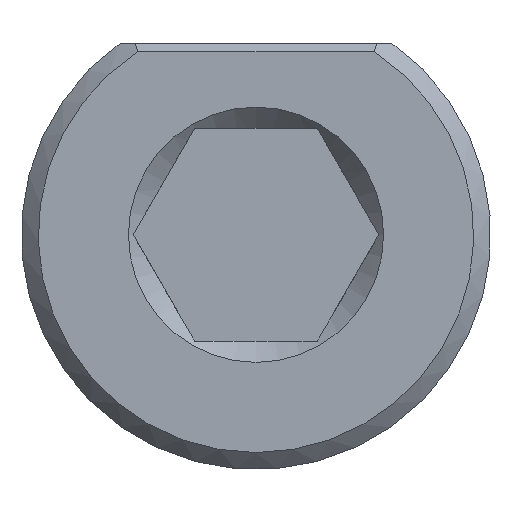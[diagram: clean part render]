
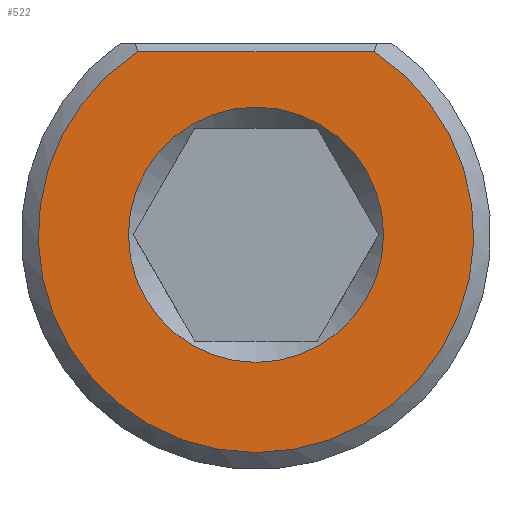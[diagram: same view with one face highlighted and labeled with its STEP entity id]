
A CAD part, front view. The second image highlights one B-rep face of the part: STEP entity #522.
In plain terms, the highlighted planar face has unit normal (0, -1, 0).
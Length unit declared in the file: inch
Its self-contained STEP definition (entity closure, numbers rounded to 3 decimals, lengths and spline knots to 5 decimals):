
#44=FACE_BOUND('',#115,.T.);
#52=PLANE('',#580);
#82=FACE_OUTER_BOUND('',#114,.T.);
#114=EDGE_LOOP('',(#410,#411));
#115=EDGE_LOOP('',(#412));
#145=LINE('',#871,#175);
#175=VECTOR('',#670,0.3937);
#204=CIRCLE('',#578,0.256);
#206=CIRCLE('',#581,0.15);
#240=VERTEX_POINT('',#866);
#241=VERTEX_POINT('',#870);
#242=VERTEX_POINT('',#879);
#303=EDGE_CURVE('',#240,#241,#145,.T.);
#305=EDGE_CURVE('',#241,#240,#204,.T.);
#307=EDGE_CURVE('',#242,#242,#206,.T.);
#410=ORIENTED_EDGE('',*,*,#303,.F.);
#411=ORIENTED_EDGE('',*,*,#305,.F.);
#412=ORIENTED_EDGE('',*,*,#307,.F.);
#522=ADVANCED_FACE('',(#82,#44),#52,.T.);
#578=AXIS2_PLACEMENT_3D('',#876,#673,#674);
#580=AXIS2_PLACEMENT_3D('',#878,#677,#678);
#581=AXIS2_PLACEMENT_3D('',#880,#679,#680);
#670=DIRECTION('',(1.,0.,0.));
#673=DIRECTION('center_axis',(0.,1.,0.));
#674=DIRECTION('ref_axis',(0.,0.,1.));
#677=DIRECTION('center_axis',(0.,-1.,0.));
#678=DIRECTION('ref_axis',(0.,0.,-1.));
#679=DIRECTION('center_axis',(0.,-1.,0.));
#680=DIRECTION('ref_axis',(0.,0.,1.));
#866=CARTESIAN_POINT('',(-0.13896,0.,0.215));
#870=CARTESIAN_POINT('',(0.13896,0.,0.215));
#871=CARTESIAN_POINT('',(0.13717,0.,0.215));
#876=CARTESIAN_POINT('Origin',(0.,0.,0.));
#878=CARTESIAN_POINT('Origin',(0.,0.,-0.125));
#879=CARTESIAN_POINT('',(0.,0.,-0.15));
#880=CARTESIAN_POINT('Origin',(0.,0.,0.));
